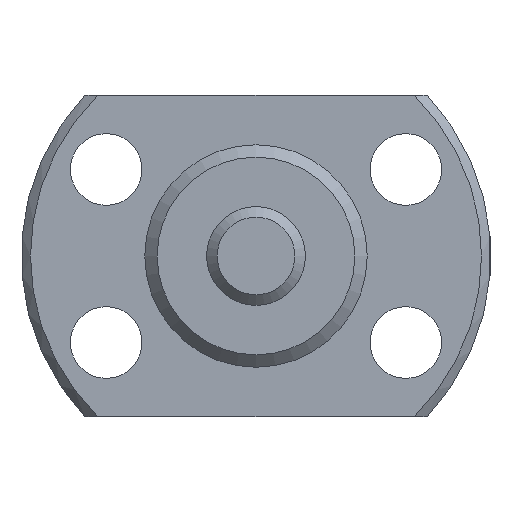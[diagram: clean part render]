
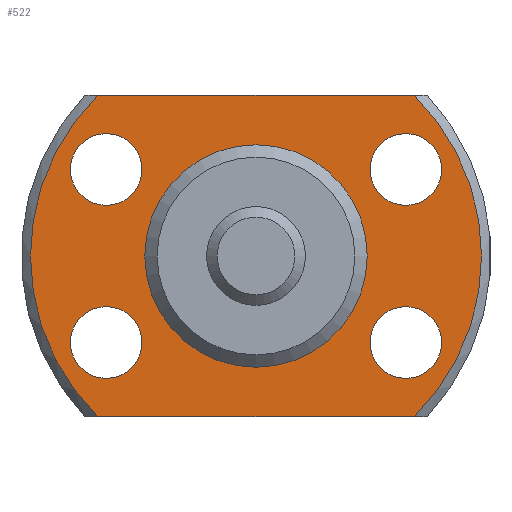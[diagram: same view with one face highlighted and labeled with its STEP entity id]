
A CAD part, left-side view. The second image highlights one B-rep face of the part: STEP entity #522.
In plain terms, the highlighted planar face has unit normal (-1, 0, 0) as drawn and (1, 0, 0) by its records, which use the part's own axes.
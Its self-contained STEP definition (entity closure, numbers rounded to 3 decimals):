
#70=LINE('',#921,#86);
#71=LINE('',#923,#87);
#86=VECTOR('',#759,1000.);
#87=VECTOR('',#760,1000.);
#165=ORIENTED_EDGE('',*,*,#256,.T.);
#166=ORIENTED_EDGE('',*,*,#234,.T.);
#167=ORIENTED_EDGE('',*,*,#257,.T.);
#168=ORIENTED_EDGE('',*,*,#258,.T.);
#169=ORIENTED_EDGE('',*,*,#259,.F.);
#170=ORIENTED_EDGE('',*,*,#260,.F.);
#171=ORIENTED_EDGE('',*,*,#261,.F.);
#172=ORIENTED_EDGE('',*,*,#262,.F.);
#173=ORIENTED_EDGE('',*,*,#255,.F.);
#234=EDGE_CURVE('',#288,#290,#332,.T.);
#255=EDGE_CURVE('',#309,#309,#347,.T.);
#256=EDGE_CURVE('',#310,#288,#70,.T.);
#257=EDGE_CURVE('',#290,#311,#71,.T.);
#258=EDGE_CURVE('',#311,#310,#348,.T.);
#259=EDGE_CURVE('',#312,#312,#349,.T.);
#260=EDGE_CURVE('',#313,#313,#350,.T.);
#261=EDGE_CURVE('',#314,#314,#351,.T.);
#262=EDGE_CURVE('',#315,#315,#352,.T.);
#288=VERTEX_POINT('',#856);
#290=VERTEX_POINT('',#863);
#309=VERTEX_POINT('',#919);
#310=VERTEX_POINT('',#922);
#311=VERTEX_POINT('',#924);
#312=VERTEX_POINT('',#927);
#313=VERTEX_POINT('',#929);
#314=VERTEX_POINT('',#931);
#315=VERTEX_POINT('',#933);
#332=CIRCLE('',#589,9.125);
#347=CIRCLE('',#613,4.3);
#348=CIRCLE('',#615,9.125);
#349=CIRCLE('',#616,1.45);
#350=CIRCLE('',#617,1.45);
#351=CIRCLE('',#618,1.45);
#352=CIRCLE('',#619,1.45);
#399=EDGE_LOOP('',(#165,#166,#167,#168));
#400=EDGE_LOOP('',(#169));
#401=EDGE_LOOP('',(#170));
#402=EDGE_LOOP('',(#171));
#403=EDGE_LOOP('',(#172));
#404=EDGE_LOOP('',(#173));
#463=FACE_BOUND('',#399,.T.);
#464=FACE_BOUND('',#400,.T.);
#465=FACE_BOUND('',#401,.T.);
#466=FACE_BOUND('',#402,.T.);
#467=FACE_BOUND('',#403,.T.);
#468=FACE_BOUND('',#404,.T.);
#494=PLANE('',#614);
#522=ADVANCED_FACE('',(#463,#464,#465,#466,#467,#468),#494,.T.);
#589=AXIS2_PLACEMENT_3D('',#864,#703,#704);
#613=AXIS2_PLACEMENT_3D('',#918,#755,#756);
#614=AXIS2_PLACEMENT_3D('',#920,#757,#758);
#615=AXIS2_PLACEMENT_3D('',#925,#761,#762);
#616=AXIS2_PLACEMENT_3D('',#926,#763,#764);
#617=AXIS2_PLACEMENT_3D('',#928,#765,#766);
#618=AXIS2_PLACEMENT_3D('',#930,#767,#768);
#619=AXIS2_PLACEMENT_3D('',#932,#769,#770);
#703=DIRECTION('',(1.,0.,0.));
#704=DIRECTION('',(0.,0.,-1.));
#755=DIRECTION('',(1.,0.,0.));
#756=DIRECTION('',(0.,0.,-1.));
#757=DIRECTION('',(1.,0.,0.));
#758=DIRECTION('',(0.,0.,-1.));
#759=DIRECTION('',(0.,-1.,0.));
#760=DIRECTION('',(0.,1.,0.));
#761=DIRECTION('',(1.,0.,0.));
#762=DIRECTION('',(0.,0.,-1.));
#763=DIRECTION('',(1.,0.,0.));
#764=DIRECTION('',(0.,0.,-1.));
#765=DIRECTION('',(1.,0.,0.));
#766=DIRECTION('',(0.,0.,-1.));
#767=DIRECTION('',(1.,0.,0.));
#768=DIRECTION('',(0.,0.,-1.));
#769=DIRECTION('',(1.,0.,0.));
#770=DIRECTION('',(0.,0.,-1.));
#856=CARTESIAN_POINT('',(3.,-6.404,6.5));
#863=CARTESIAN_POINT('',(3.,-6.404,-6.5));
#864=CARTESIAN_POINT('',(3.,0.,0.));
#918=CARTESIAN_POINT('',(3.,0.,0.));
#919=CARTESIAN_POINT('',(3.,0.,-4.3));
#920=CARTESIAN_POINT('',(3.,4.3,0.));
#921=CARTESIAN_POINT('',(3.,9.5,6.5));
#922=CARTESIAN_POINT('',(3.,6.404,6.5));
#923=CARTESIAN_POINT('',(3.,-9.5,-6.5));
#924=CARTESIAN_POINT('',(3.,6.404,-6.5));
#925=CARTESIAN_POINT('',(3.,0.,0.));
#926=CARTESIAN_POINT('',(3.,6.062,3.5));
#927=CARTESIAN_POINT('',(3.,6.062,2.05));
#928=CARTESIAN_POINT('',(3.,-6.062,3.5));
#929=CARTESIAN_POINT('',(3.,-6.062,2.05));
#930=CARTESIAN_POINT('',(3.,-6.062,-3.5));
#931=CARTESIAN_POINT('',(3.,-6.062,-4.95));
#932=CARTESIAN_POINT('',(3.,6.062,-3.5));
#933=CARTESIAN_POINT('',(3.,6.062,-4.95));
